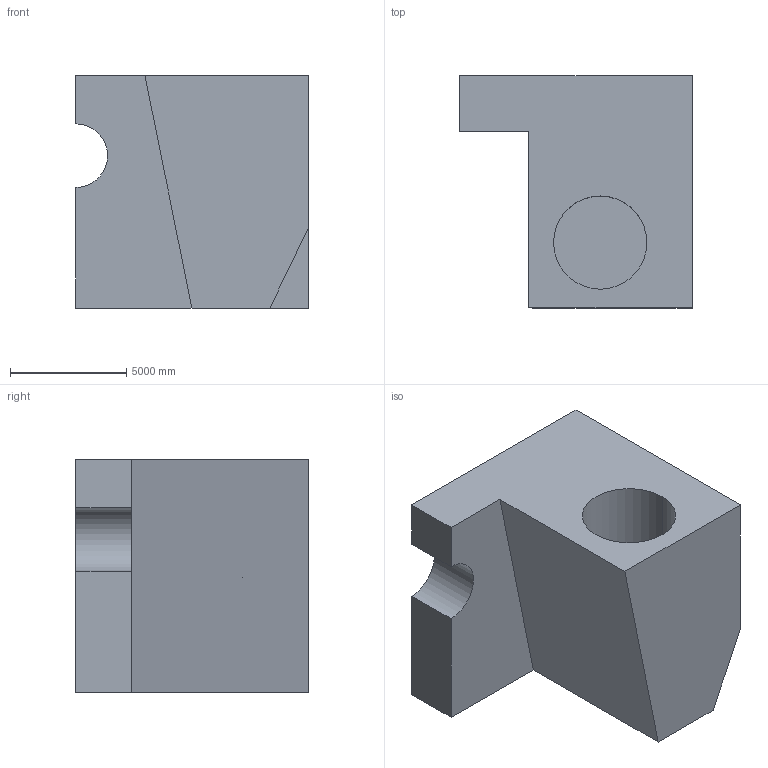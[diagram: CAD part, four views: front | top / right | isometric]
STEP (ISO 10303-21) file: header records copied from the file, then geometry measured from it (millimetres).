
FILE_DESCRIPTION (( 'STEP AP203' ), '1' );
FILE_NAME ('334.STEP', '2022-07-28T14:23:00', ( 'user' ), ( '' ), 'SwSTEP 2.0', 'SolidWorks 2021', '' );
FILE_SCHEMA (( 'CONFIG_CONTROL_DESIGN' ));
Length unit declared in the file: centimetre
Products named in the file (1): 334
Bounding box: 10000 x 10000 x 10000 mm (x, y, z)
Volume: 611109690942.7 mm3; surface area: 596303751.3 mm2
Topology: 1 solids, 1 shells, 15 faces, 36 edges, 24 vertices
Faces by surface type: plane 12, cylinder 3
Entity records: 513 total; most frequent: CARTESIAN_POINT 76, DIRECTION 74, ORIENTED_EDGE 72, EDGE_CURVE 36, LINE 30, VECTOR 30, VERTEX_POINT 24, AXIS2_PLACEMENT_3D 22
